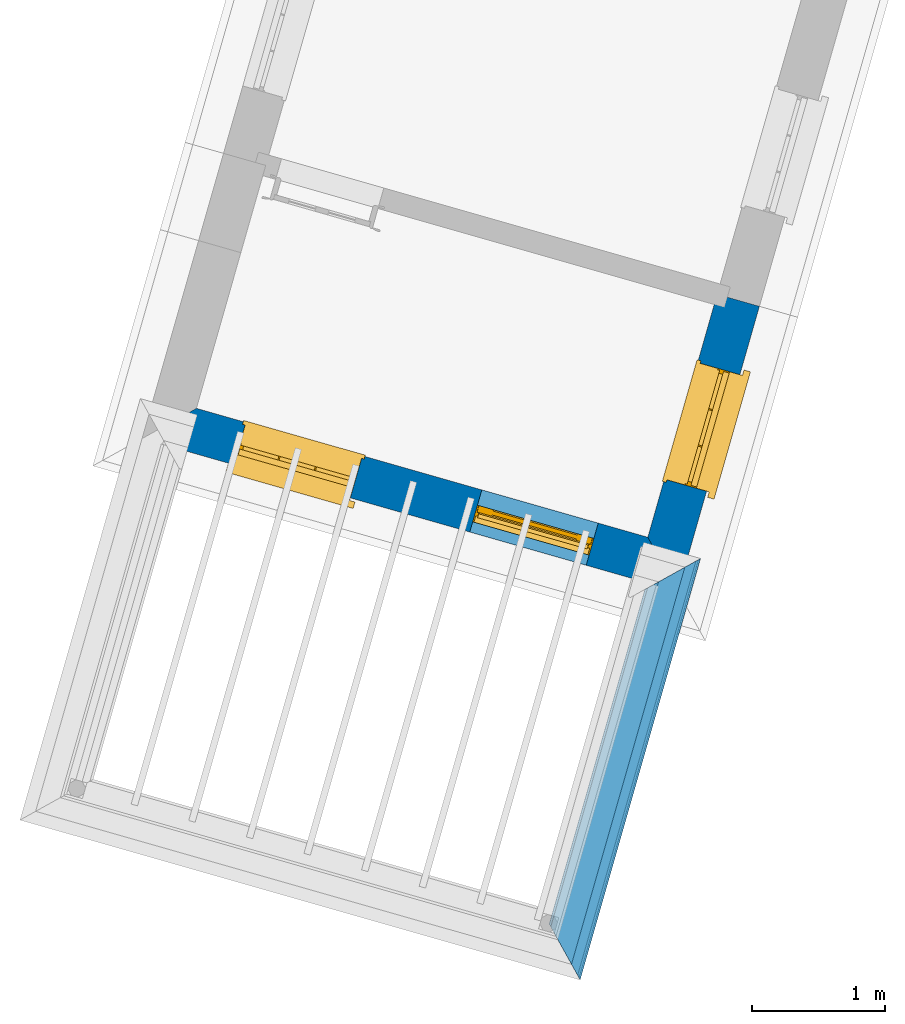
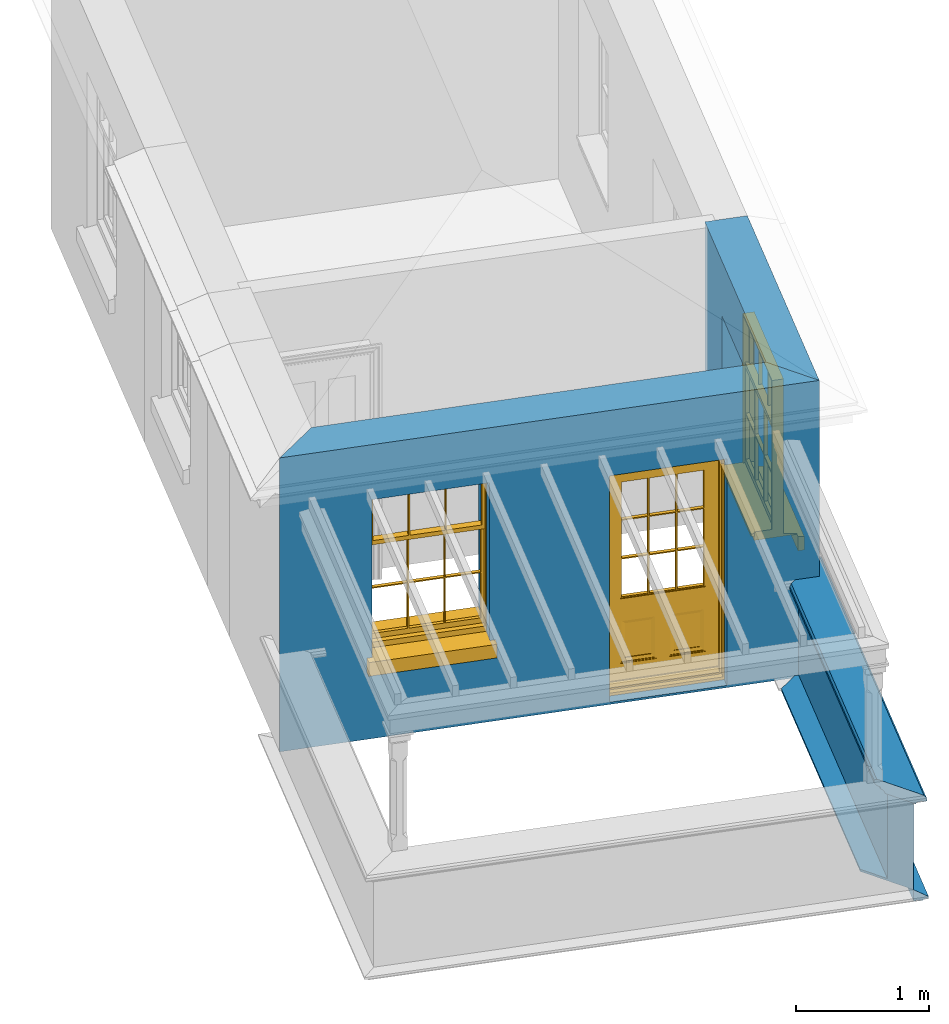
# One storey, part 2 of 4: 5 walls, 2 windows, 1 door, 3 openings.
"""IFC4 building model written with IfcOpenShell, lengths in metres."""

from ifc_helpers import new_model, si_unit, frame, origin, origin_with_axes, place, context, subcontext, project, spatial, polyline, outline, extrude, clip, halfspace, faceted_brep, source, transform, mapped, material, layer, layer_set, layer_usage, material_profile, profile_set, profile_usage, type_object, type_shapes, element, fill, save


model = new_model("IFC4")

# Units and contexts
model_context = context("Model", 3, world=origin_with_axes())
body_context = subcontext(model_context, "Body", "Model", "MODEL_VIEW")
ifc_project = project(units=[si_unit("PLANEANGLEUNIT", "RADIAN"), si_unit("MASSUNIT", "GRAM", prefix="KILO"), si_unit("FORCEUNIT", "NEWTON", prefix="KILO"), si_unit("LENGTHUNIT", "METRE"), si_unit("AREAUNIT", "SQUARE_METRE"), si_unit("VOLUMEUNIT", "CUBIC_METRE")], contexts=[model_context, model_context])

# Sites, building, storey
site_1_placement = place(None, origin_with_axes())
site_1 = spatial("IfcSite", under=ifc_project, at=site_1_placement, Name="Tamar")
site_2_placement = place(site_1_placement, origin_with_axes())
site_2 = spatial("IfcSite", under=site_1, at=site_2_placement, Name="Site plot-20", CompositionType="ELEMENT")
building_placement = place(None, origin_with_axes())
building = spatial("IfcBuilding", under=site_2, at=building_placement, Name="Building plot-20", CompositionType="ELEMENT")
storey_placement = place(None, frame((0.0, 0.0, 31.85), z_axis=(0.0, 0.0, 1.0), x_axis=(1.0, 0.0, 0.0)))
storey = spatial("IfcBuildingStorey", under=building, at=storey_placement, Name="plot-20 2", CompositionType="ELEMENT", Elevation=31.85)

# Wall, openings, door, window
ifc_material = material(Name="Masonry")
ifc_layer = layer(ifc_material, 0.33, ventilated=False)
ifc_layer_set = layer_set([ifc_layer], Name="exterior_0.08_0.25")
ifc_layer_usage = layer_usage(ifc_layer_set, "AXIS2", "POSITIVE", -0.25)
wall_type_1 = type_object("IfcWallType", Name="exterior_0.08_0.25", PredefinedType="SOLIDWALL", material=ifc_layer_set)
wall_1_placement = place(storey_placement, frame((277.044123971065, 287.550543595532, 0.0), z_axis=(0.0, 0.0, 1.0), x_axis=(0.961567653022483, -0.274568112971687, 0.0)))
wall_1 = element("IfcWall", 1, at=wall_1_placement, inside=storey, type_object=wall_type_1, material=ifc_layer_usage, Name="exterior", context=body_context, shape_type="SweptSolid", body=[
    extrude(outline(polyline([(0.0800000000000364, 0.0800000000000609), (-0.250000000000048, -0.249999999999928), (3.93676876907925, -0.249999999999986), (3.60676876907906, 0.0799999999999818), (0.0800000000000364, 0.0800000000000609)])), origin_with_axes(), (0.0, 0.0, 1.0), 2.7),
])
opening_1_placement = place(wall_1_placement, frame((0.46669219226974, 0.0, 0.75)))
opening_1 = element("IfcOpeningElement", 2, at=opening_1_placement, cuts=wall_1, Name="My Opening", ObjectType="Opening", context=body_context, shape_type="SweptSolid", body=[
    extrude(outline(polyline([(0.0, -0.269999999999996), (0.91000000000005, -0.270000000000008), (0.910000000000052, 1.09999999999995), (2.33146835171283e-15, 1.09999999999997), (0.0, -0.269999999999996)])), origin_with_axes(), (0.0, 0.0, 1.0), 1.445),
])
opening_2_placement = place(wall_1_placement, frame((2.31007657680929, 0.0, 0.0199999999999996)))
opening_2 = element("IfcOpeningElement", 3, at=opening_2_placement, cuts=wall_1, Name="My Opening", ObjectType="Opening", context=body_context, shape_type="SweptSolid", body=[
    extrude(outline(polyline([(0.0, -0.269999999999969), (0.91000000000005, -0.269999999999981), (0.910000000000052, 1.09999999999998), (2.22044604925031e-15, 1.09999999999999), (0.0, -0.269999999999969)])), origin_with_axes(), (0.0, 0.0, 1.0), 2.08),
])
door_type = type_object("IfcDoorType", Name="door_panelled", OperationType="SINGLE_SWING_LEFT", PredefinedType="NOTDEFINED")
shared_shape_1 = source(origin(), body_context, "Body", "Brep", [
    faceted_brep([(0.545, 0.195, 0.265), (0.745, 0.195, 0.265), (0.745, 0.2, 0.265), (0.545, 0.2, 0.265), (0.745, 0.2, 0.58), (0.545, 0.2, 0.58), (0.545, 0.195, 0.58), (0.515, 0.19, 0.235), (0.775, 0.19, 0.235), (0.745, 0.195, 0.58), (0.515, 0.19, 0.61), (0.515, 0.185, 0.235), (0.775, 0.185, 0.235), (0.775, 0.19, 0.61), (0.515, 0.185, 0.61), (0.785, 0.185, 0.225), (0.505, 0.185, 0.225), (0.775, 0.185, 0.61), (0.505, 0.185, 0.62), (0.785, 0.185, 0.62), (0.505, 0.18, 0.225), (0.785, 0.18, 0.225), (0.505, 0.18, 0.62), (0.785, 0.18, 0.62), (0.883, 0.18, 0.075), (0.898, 0.18, 0.075), (0.405, 0.18, 0.62), (0.405, 0.18, 0.225), (0.027, 0.18, 0.075), (0.785, 0.18, 0.82), (0.125, 0.18, 0.82), (0.405, 0.185, 0.62), (0.405, 0.185, 0.225), (0.898, 0.18, 2.068), (0.027, 0.17, 0.075), (0.883, 0.17, 0.075), (0.125, 0.18, 0.225), (0.012, 0.18, 0.075), (0.785, 0.19, 0.82), (0.125, 0.19, 0.82), (0.125, 0.18, 0.62), (0.125, 0.185, 0.62), (0.395, 0.185, 0.61), (0.395, 0.185, 0.235), (0.125, 0.185, 0.225), (0.785, 0.18, 1.895), (0.027, 0.14, 0.045), (0.883, 0.14, 0.045), (0.558333, 0.19, 0.83), (0.351667, 0.19, 0.83), (0.125, 0.18, 1.895), (0.125, 0.19, 1.895), (0.785, 0.19, 1.895), (0.012, 0.18, 2.068), (0.135, 0.185, 0.61), (0.395, 0.19, 0.61), (0.395, 0.19, 0.235), (0.135, 0.185, 0.235), (0.027, 0.14, 0.027), (0.883, 0.14, 0.027), (0.568333, 0.19, 0.83), (0.558333, 0.22, 0.83), (0.351667, 0.22, 0.83), (0.341667, 0.19, 0.83), (0.135, 0.19, 1.185), (0.135, 0.19, 1.53), (0.775, 0.19, 1.53), (0.775, 0.19, 1.185), (0.135, 0.19, 0.61), (0.365, 0.195, 0.58), (0.365, 0.195, 0.265), (0.135, 0.19, 0.235), (0.568333, 0.19, 1.175), (0.558333, 0.19, 1.175), (0.775, 0.19, 0.83), (0.558333, 0.22, 1.175), (0.785, 0.22, 0.82), (0.125, 0.22, 0.82), (0.351667, 0.22, 1.175), (0.351667, 0.19, 1.175), (0.341667, 0.19, 1.175), (0.135, 0.19, 0.83), (0.135, 0.19, 1.175), (0.135, 0.22, 1.185), (0.135, 0.22, 1.53), (0.135, 0.19, 1.54), (0.351667, 0.19, 1.885), (0.558333, 0.19, 1.885), (0.775, 0.22, 1.53), (0.775, 0.22, 1.185), (0.775, 0.19, 1.175), (0.775, 0.19, 1.54), (0.165, 0.195, 0.58), (0.365, 0.2, 0.58), (0.365, 0.2, 0.265), (0.165, 0.195, 0.265), (0.568333, 0.22, 0.83), (0.568333, 0.22, 1.175), (0.568333, 0.19, 1.185), (0.558333, 0.19, 1.185), (0.775, 0.22, 0.83), (0.785, 0.23, 0.82), (0.125, 0.23, 0.82), (0.341667, 0.22, 0.83), (0.341667, 0.22, 1.175), (0.351667, 0.19, 1.185), (0.341667, 0.19, 1.185), (0.135, 0.22, 0.83), (0.341667, 0.22, 1.185), (0.125, 0.22, 1.895), (0.341667, 0.22, 1.53), (0.341667, 0.19, 1.53), (0.135, 0.19, 1.885), (0.341667, 0.19, 1.54), (0.341667, 0.19, 1.885), (0.558333, 0.22, 1.885), (0.351667, 0.22, 1.885), (0.568333, 0.19, 1.885), (0.785, 0.22, 1.895), (0.568333, 0.22, 1.185), (0.568333, 0.19, 1.53), (0.568333, 0.22, 1.53), (0.568333, 0.19, 1.54), (0.775, 0.19, 1.885), (0.165, 0.2, 0.58), (0.165, 0.2, 0.265), (0.775, 0.22, 1.175), (0.558333, 0.19, 1.53), (0.351667, 0.22, 1.185), (0.558333, 0.22, 1.185), (0.505, 0.23, 0.62), (0.405, 0.23, 0.62), (0.125, 0.23, 1.895), (0.785, 0.23, 1.895), (0.351667, 0.19, 1.53), (0.135, 0.22, 1.175), (0.135, 0.22, 1.54), (0.341667, 0.22, 1.54), (0.135, 0.22, 1.885), (0.351667, 0.19, 1.54), (0.558333, 0.22, 1.54), (0.558333, 0.19, 1.54), (0.351667, 0.22, 1.54), (0.775, 0.22, 1.54), (0.568333, 0.22, 1.54), (0.775, 0.22, 1.885), (0.558333, 0.22, 1.53), (0.405, 0.23, 0.225), (0.505, 0.23, 0.225), (0.125, 0.23, 0.62), (0.785, 0.23, 0.62), (0.012, 0.23, 2.068), (0.898, 0.23, 2.068), (0.351667, 0.22, 1.53), (0.341667, 0.22, 1.885), (0.568333, 0.22, 1.885), (0.405, 0.225, 0.225), (0.405, 0.225, 0.62), (0.505, 0.225, 0.62), (0.505, 0.225, 0.225), (0.898, 0.23, 0.027), (0.012, 0.23, 0.027), (0.125, 0.225, 0.62), (0.785, 0.225, 0.62), (0.395, 0.225, 0.235), (0.395, 0.225, 0.61), (0.125, 0.23, 0.225), (0.125, 0.225, 0.225), (0.515, 0.225, 0.61), (0.515, 0.225, 0.235), (0.785, 0.23, 0.225), (0.785, 0.225, 0.225), (0.135, 0.225, 0.61), (0.775, 0.225, 0.61), (0.135, 0.225, 0.235), (0.395, 0.22, 0.235), (0.395, 0.22, 0.61), (0.515, 0.22, 0.61), (0.515, 0.22, 0.235), (0.775, 0.225, 0.235), (0.135, 0.22, 0.61), (0.775, 0.22, 0.61), (0.135, 0.22, 0.235), (0.365, 0.215, 0.265), (0.365, 0.215, 0.58), (0.545, 0.215, 0.58), (0.545, 0.215, 0.265), (0.775, 0.22, 0.235), (0.165, 0.215, 0.58), (0.745, 0.215, 0.58), (0.165, 0.215, 0.265), (0.365, 0.21, 0.58), (0.365, 0.21, 0.265), (0.545, 0.21, 0.58), (0.545, 0.21, 0.265), (0.745, 0.215, 0.265), (0.165, 0.21, 0.58), (0.745, 0.21, 0.58), (0.165, 0.21, 0.265), (0.745, 0.21, 0.265), (0.885, 0.178, 0.025), (0.025, 0.178, 0.025), (0.025, 0.15, 0.025), (0.885, 0.15, 0.025), (0.9, 0.23, 0.025), (0.01, 0.23, 0.025), (0.9, 0.178, 0.025), (0.91, 0.23, 0.0), (0.0, 0.23, 0.0), (0.01, 0.178, 0.025), (0.9, 0.178, 2.07), (0.9, 0.23, 2.07), (0.885, 0.178, 2.055), (0.91, 0.23, 2.08), (0.01, 0.23, 2.07), (0.0, 0.23, 2.08), (0.01, 0.178, 2.07), (0.025, 0.178, 2.055), (0.0, 0.1, 2.08), (0.91, 0.1, 2.08), (0.01, 0.1, 2.07), (0.9, 0.1, 2.07), (0.01, 0.15, 2.07), (0.9, 0.15, 2.07), (0.0, 0.1, 0.0), (0.91, 0.1, 0.0), (0.01, 0.1, 0.025), (0.9, 0.1, 0.025), (0.01, 0.15, 0.025), (0.025, 0.15, 2.055), (0.9, 0.15, 0.025), (0.885, 0.15, 2.055), (0.898, 0.18, 0.027), (0.012, 0.18, 0.027), (0.883, 0.18, 0.027), (0.027, 0.18, 0.027)], [[[0, 1, 2, 3]], [[2, 4, 5, 3]], [[0, 3, 5, 6]], [[1, 0, 7, 8]], [[9, 4, 2, 1]], [[9, 6, 5, 4]], [[0, 6, 10, 7]], [[8, 7, 11, 12]], [[8, 13, 9, 1]], [[13, 10, 6, 9]], [[7, 10, 14, 11]], [[15, 12, 11, 16]], [[12, 17, 13, 8]], [[17, 14, 10, 13]], [[18, 16, 11, 14]], [[15, 19, 17, 12]], [[15, 16, 20, 21]], [[14, 17, 19, 18]], [[16, 18, 22, 20]], [[21, 23, 19, 15]], [[24, 25, 21, 20]], [[23, 22, 18, 19]], [[20, 22, 26, 27]], [[23, 21, 25]], [[28, 24, 20, 27]], [[22, 23, 29]], [[29, 30, 26, 22]], [[27, 26, 31, 32]], [[23, 25, 33, 29]], [[34, 35, 24, 28]], [[28, 27, 36, 37]], [[38, 39, 30, 29]], [[26, 30, 40]], [[26, 40, 41, 31]], [[42, 43, 32, 31]], [[32, 44, 36, 27]], [[33, 45, 29]], [[46, 47, 35, 34]], [[36, 40, 37]], [[39, 38, 48, 49]], [[50, 30, 39, 51]], [[29, 45, 52, 38]], [[53, 37, 40, 30]], [[44, 41, 40, 36]], [[31, 41, 54, 42]], [[43, 42, 55, 56]], [[57, 44, 32, 43]], [[50, 45, 33, 53]], [[47, 46, 58, 59]], [[60, 48, 38]], [[49, 48, 61, 62]], [[49, 63, 39]], [[50, 53, 30]], [[51, 39, 64, 65]], [[45, 50, 51, 52]], [[66, 67, 38, 52]], [[57, 54, 41, 44]], [[42, 54, 68, 55]], [[56, 55, 69, 70]], [[56, 71, 57, 43]], [[60, 72, 73, 48]], [[60, 38, 74]], [[48, 73, 75, 61]], [[76, 77, 62, 61]], [[62, 78, 79, 49]], [[49, 79, 80, 63]], [[63, 81, 39]], [[82, 64, 39]], [[65, 64, 83, 84]], [[85, 51, 65]], [[52, 51, 86, 87]], [[88, 89, 67, 66]], [[90, 38, 67]], [[91, 66, 52]], [[71, 68, 54, 57]], [[55, 68, 92, 69]], [[69, 93, 94, 70]], [[70, 95, 71, 56]], [[96, 97, 72, 60]], [[73, 72, 98, 99]], [[74, 38, 90]], [[100, 96, 60, 74]], [[75, 73, 79, 78]], [[61, 75, 97, 96]], [[101, 102, 77, 76]], [[77, 103, 62]], [[96, 76, 61]], [[103, 104, 78, 62]], [[80, 79, 105, 106]], [[63, 80, 104, 103]], [[81, 63, 103, 107]], [[81, 82, 39]], [[106, 64, 82, 80]], [[106, 108, 83, 64]], [[84, 83, 77, 109]], [[110, 111, 65, 84]], [[112, 51, 85]], [[113, 85, 65, 111]], [[114, 86, 51]], [[115, 87, 86, 116]], [[117, 52, 87]], [[118, 76, 89, 88]], [[119, 98, 67, 89]], [[120, 121, 88, 66]], [[67, 98, 72, 90]], [[91, 122, 120, 66]], [[91, 52, 123]], [[95, 92, 68, 71]], [[69, 92, 124, 93]], [[94, 93, 124, 125]], [[94, 125, 95, 70]], [[72, 97, 126, 90]], [[127, 99, 98, 120]], [[99, 105, 79, 73]], [[74, 90, 126, 100]], [[96, 100, 76]], [[128, 129, 75, 78]], [[97, 75, 129, 119]], [[130, 131, 102, 101]], [[109, 77, 102, 132]], [[133, 101, 76, 118]], [[77, 107, 103]], [[78, 104, 108, 128]], [[111, 106, 105, 134]], [[104, 80, 82, 135]], [[107, 135, 82, 81]], [[110, 108, 106, 111]], [[104, 135, 83, 108]], [[83, 135, 77]], [[136, 84, 109]], [[110, 84, 136, 137]], [[114, 51, 112]], [[85, 136, 138, 112]], [[113, 137, 136, 85]], [[111, 134, 139, 113]], [[86, 114, 113, 139]], [[140, 141, 87, 115]], [[139, 142, 116, 86]], [[109, 118, 115, 116]], [[117, 123, 52]], [[117, 87, 141, 122]], [[126, 89, 76]], [[143, 118, 88]], [[120, 98, 119, 121]], [[119, 89, 126, 97]], [[144, 143, 88, 121]], [[144, 122, 91, 143]], [[127, 120, 122, 141]], [[143, 91, 123, 145]], [[124, 92, 95, 125]], [[146, 129, 99, 127]], [[99, 129, 128, 105]], [[100, 126, 76]], [[121, 119, 129, 146]], [[147, 131, 130, 148]], [[131, 149, 102]], [[130, 101, 150]], [[102, 151, 132]], [[118, 109, 132, 133]], [[101, 133, 152]], [[107, 77, 135]], [[153, 128, 108, 110]], [[134, 105, 128, 153]], [[109, 138, 136]], [[153, 110, 137, 142]], [[154, 114, 112, 138]], [[137, 113, 114, 154]], [[141, 139, 134, 127]], [[141, 140, 142, 139]], [[144, 140, 115, 155]], [[142, 137, 154, 116]], [[155, 115, 118]], [[116, 154, 109]], [[117, 155, 145, 123]], [[122, 144, 155, 117]], [[143, 145, 118]], [[121, 146, 140, 144]], [[146, 127, 134, 153]], [[156, 157, 131, 147]], [[148, 130, 158, 159]], [[148, 160, 161, 147]], [[157, 162, 149, 131]], [[161, 151, 102, 149]], [[101, 152, 160, 150]], [[163, 158, 130, 150]], [[151, 152, 133, 132]], [[154, 138, 109]], [[142, 140, 146, 153]], [[145, 155, 118]], [[157, 156, 164, 165]], [[147, 166, 167, 156]], [[168, 169, 159, 158]], [[170, 148, 159, 171]], [[148, 170, 160]], [[166, 147, 161]], [[172, 162, 157, 165]], [[166, 149, 162, 167]], [[166, 161, 149]], [[150, 160, 170]], [[163, 173, 168, 158]], [[171, 163, 150, 170]], [[174, 164, 156, 167]], [[175, 176, 165, 164]], [[169, 168, 177, 178]], [[171, 159, 169, 179]], [[167, 162, 172, 174]], [[176, 180, 172, 165]], [[179, 173, 163, 171]], [[181, 177, 168, 173]], [[164, 174, 182, 175]], [[183, 184, 176, 175]], [[178, 177, 185, 186]], [[179, 169, 178, 187]], [[174, 172, 180, 182]], [[184, 188, 180, 176]], [[187, 181, 173, 179]], [[189, 185, 177, 181]], [[175, 182, 190, 183]], [[191, 184, 183, 192]], [[185, 193, 194, 186]], [[187, 178, 186, 195]], [[182, 180, 188, 190]], [[191, 196, 188, 184]], [[195, 189, 181, 187]], [[197, 193, 185, 189]], [[183, 190, 198, 192]], [[198, 196, 191, 192]], [[194, 193, 197, 199]], [[195, 186, 194, 199]], [[188, 196, 198, 190]], [[197, 189, 195, 199]], [[200, 201, 202, 203]], [[201, 200, 204, 205]], [[206, 204, 200]], [[204, 207, 208, 205]], [[209, 201, 205]], [[210, 211, 204, 206]], [[206, 200, 212, 210]], [[211, 213, 207, 204]], [[214, 205, 208, 215]], [[216, 217, 201, 209]], [[205, 214, 216, 209]], [[216, 214, 211, 210]], [[210, 212, 217, 216]], [[214, 215, 213, 211]], [[218, 219, 213, 215]], [[219, 218, 220, 221]], [[221, 220, 222, 223]], [[215, 208, 224, 218]], [[225, 224, 208, 207]], [[224, 226, 220, 218]], [[224, 225, 227, 226]], [[219, 225, 207, 213]], [[228, 222, 220, 226]], [[219, 221, 227, 225]], [[226, 227, 203, 202]], [[202, 229, 222, 228]], [[228, 226, 202]], [[227, 221, 223, 230]], [[230, 203, 227]], [[217, 229, 202, 201]], [[231, 223, 222, 229]], [[230, 223, 231, 203]], [[231, 229, 217, 212]], [[212, 200, 203, 231]], [[33, 152, 151, 53]], [[25, 160, 152, 33]], [[161, 37, 53, 151]], [[232, 160, 25]], [[161, 233, 37]], [[160, 232, 234]], [[24, 234, 232, 25]], [[233, 161, 235]], [[37, 233, 235, 28]], [[161, 160, 234, 235]], [[35, 47, 234, 24]], [[28, 235, 46, 34]], [[58, 235, 234, 59]], [[59, 234, 47]], [[58, 46, 235]]]),
])
type_shapes(door_type, [shared_shape_1])
door_placement = place(storey_placement, frame((279.191285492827, 286.656646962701, 0.0199999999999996), z_axis=(0.0, 0.0, 1.0), x_axis=(0.875026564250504, -0.24985698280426, 0.0)))
door = element("IfcDoor", 4, at=door_placement, inside=storey, type_object=door_type, Name="circulation outside door", OverallHeight=2.08, OverallWidth=0.91, context=body_context, shape_type="MappedRepresentation", body=[
    mapped(shared_shape_1, transform((0.0, 0.0, 0.0), scale=1.0)),
])
fill(opening_2, door)
window_type = type_object("IfcWindowType", Name="sash_shorter", PartitioningType="DOUBLE_PANEL_HORIZONTAL", PredefinedType="NOTDEFINED")
shared_shape_2 = source(origin(), body_context, "Body", "Brep", [
    faceted_brep([(0.876875, 0.145, 0.999097), (0.876875, 0.145, 1.411875), (0.9, 0.145, 1.435), (0.033125, 0.145, 1.411875), (0.033125, 0.145, 0.999097), (0.01, 0.145, 1.435), (0.033125, 0.115, 1.411875), (0.01, 0.115, 1.435), (0.033125, 0.115, 0.999097), (0.876875, 0.115, 1.411875), (0.876875, 0.115, 0.999097), (0.9, 0.115, 1.435), (0.033125, 0.145, 0.960972), (0.01, 0.145, 0.960972), (0.033125, 0.145, 0.548195), (0.876875, 0.145, 0.960972), (0.876875, 0.145, 0.548195), (0.9, 0.145, 0.960972), (0.876875, 0.145, 0.538195), (0.876875, 0.145, 0.125417), (0.9, 0.145, 0.077167), (0.033125, 0.145, 0.125417), (0.033125, 0.145, 0.538195), (0.01, 0.145, 0.077167), (0.9, 0.115, 0.960972), (0.01, 0.115, 0.960972), (-0.0425, 0.0, 0.01), (-0.0425, -0.05, 0.001667), (0.0, 0.0, 0.01), (0.9525, 0.0, 0.01), (0.91, 0.0, 0.01), (0.9525, -0.05, 0.001667), (-0.02, 0.33, 0.077167), (0.0, 0.33, 0.077167), (-0.02, 0.36, 0.077167), (0.0, 0.19, 0.077167), (0.01, 0.19, 0.077167), (0.91, 0.19, 0.077167), (0.91, 0.33, 0.077167), (0.9, 0.19, 0.077167), (0.93, 0.33, 0.077167), (0.93, 0.36, 0.077167), (0.01, 0.145, 0.999097), (0.01, 0.175, 0.999097), (0.9, 0.145, 0.999097), (0.9, 0.175, 0.999097), (0.876875, 0.175, 0.125417), (0.876875, 0.175, 0.538195), (0.9, 0.175, 0.077167), (0.876875, 0.175, 0.548195), (0.876875, 0.175, 0.960972), (0.033125, 0.175, 0.125417), (0.01, 0.175, 0.077167), (0.033125, 0.175, 0.538195), (0.033125, 0.175, 0.960972), (0.033125, 0.175, 0.548195), (-0.02, 0.33, 0.052167), (-0.02, 0.36, 0.052167), (0.93, 0.36, 0.052167), (0.93, 0.33, 0.052167), (0.91, 0.33, 0.052167), (0.0, 0.33, 0.052167), (0.91, 0.1, 0.026667), (0.0, 0.1, 0.026667), (-0.0425, -0.05, -0.123333), (0.9525, -0.05, -0.123333), (-0.0425, 0.0, -0.123333), (0.9525, 0.0, -0.123333), (0.01, 0.19, 1.435), (0.9, 0.19, 1.435), (0.0, 0.19, 1.445), (0.91, 0.19, 1.445), (0.01, 0.1, 0.077167), (0.9, 0.1, 0.077167), (0.592292, 0.145, 0.125417), (0.592292, 0.175, 0.125417), (0.317708, 0.175, 0.125417), (0.317708, 0.145, 0.125417), (0.592292, 0.145, 0.548195), (0.317708, 0.145, 0.548195), (0.317708, 0.145, 0.538195), (0.592292, 0.145, 0.538195), (0.592292, 0.175, 0.548195), (0.317708, 0.175, 0.548195), (0.602292, 0.175, 0.548195), (0.602292, 0.145, 0.548195), (0.317708, 0.175, 0.538195), (0.307708, 0.175, 0.125417), (0.307708, 0.175, 0.538195), (0.602292, 0.175, 0.538195), (0.602292, 0.175, 0.125417), (0.592292, 0.175, 0.538195), (0.307708, 0.175, 0.548195), (0.317708, 0.175, 0.960972), (0.307708, 0.175, 0.960972), (0.602292, 0.175, 0.960972), (0.592292, 0.175, 0.960972), (0.307708, 0.145, 0.538195), (0.307708, 0.145, 0.125417), (0.307708, 0.145, 0.548195), (0.307708, 0.145, 0.960972), (0.592292, 0.145, 0.960972), (0.317708, 0.145, 0.960972), (0.602292, 0.145, 0.960972), (0.602292, 0.145, 0.538195), (0.602292, 0.145, 0.125417), (0.317708, 0.115, 1.411875), (0.307708, 0.115, 1.411875), (0.307708, 0.115, 0.999097), (0.317708, 0.115, 0.999097), (0.602292, 0.115, 1.411875), (0.592292, 0.115, 1.411875), (0.592292, 0.115, 0.999097), (0.602292, 0.115, 0.999097), (0.317708, 0.145, 0.999097), (0.307708, 0.145, 0.999097), (0.307708, 0.145, 1.411875), (0.317708, 0.145, 1.411875), (0.602292, 0.145, 0.999097), (0.592292, 0.145, 0.999097), (0.592292, 0.145, 1.411875), (0.602292, 0.145, 1.411875), (0.91, 0.1, 1.445), (0.9, 0.1, 1.435), (0.01, 0.1, 1.435), (0.0, 0.1, 1.445), (0.91, 0.0, 0.0), (0.0, 0.0, 0.0), (0.91, 0.33, 0.0), (0.0, 0.33, 0.0)], [[[0, 1, 2]], [[3, 4, 5]], [[6, 7, 8]], [[9, 10, 11]], [[12, 13, 14]], [[15, 16, 17]], [[18, 19, 20]], [[21, 22, 23]], [[24, 15, 17]], [[13, 12, 25]], [[26, 27, 28]], [[29, 30, 31]], [[32, 33, 34]], [[35, 36, 33]], [[37, 38, 39]], [[40, 41, 38]], [[42, 4, 43]], [[44, 45, 0]], [[46, 47, 48]], [[49, 50, 45]], [[51, 52, 53]], [[54, 55, 43]], [[38, 33, 36, 39]], [[41, 34, 33, 38]], [[56, 32, 34, 57]], [[57, 34, 41, 58]], [[58, 41, 40, 59]], [[57, 58, 60, 61]], [[52, 48, 39, 36]], [[62, 63, 28, 30]], [[27, 31, 30, 28]], [[27, 64, 65, 31]], [[66, 67, 65, 64]], [[2, 5, 68, 69]], [[68, 70, 71, 69]], [[20, 23, 72, 73]], [[73, 72, 63, 62]], [[74, 75, 76, 77]], [[78, 79, 80, 81]], [[78, 82, 83, 79]], [[16, 49, 84, 85]], [[86, 76, 87, 88]], [[89, 90, 75, 91]], [[92, 88, 53, 55]], [[82, 91, 86, 83]], [[93, 83, 92, 94]], [[95, 84, 82, 96]], [[89, 84, 49, 47]], [[97, 88, 87, 98]], [[22, 53, 88, 97]], [[81, 91, 75, 74]], [[80, 86, 91, 81]], [[77, 76, 86, 80]], [[99, 92, 55, 14]], [[100, 94, 92, 99]], [[101, 96, 82, 78]], [[79, 83, 93, 102]], [[85, 84, 95, 103]], [[104, 89, 47, 18]], [[105, 90, 89, 104]], [[104, 18, 16, 85]], [[80, 97, 98, 77]], [[104, 81, 74, 105]], [[103, 101, 78, 85]], [[99, 14, 22, 97]], [[102, 100, 99, 79]], [[106, 107, 108, 109]], [[110, 111, 112, 113]], [[114, 115, 116, 117]], [[118, 119, 120, 121]], [[107, 116, 115, 108]], [[111, 120, 119, 112]], [[109, 114, 117, 106]], [[113, 118, 121, 110]], [[85, 78, 81, 104]], [[84, 89, 91, 82]], [[83, 86, 88, 92]], [[79, 99, 97, 80]], [[109, 112, 119, 114]], [[102, 93, 96, 101]], [[106, 117, 120, 111]], [[98, 87, 51, 21]], [[6, 3, 116, 107]], [[110, 121, 1, 9]], [[19, 46, 90, 105]], [[26, 66, 64, 27]], [[29, 31, 65, 67]], [[25, 24, 112, 109]], [[11, 7, 106, 111]], [[75, 48, 52, 76]], [[43, 45, 96, 93]], [[45, 43, 114, 119]], [[5, 2, 120, 117]], [[24, 25, 102, 101]], [[42, 5, 4]], [[2, 44, 0]], [[49, 45, 48, 47]], [[52, 43, 55, 53]], [[14, 13, 23, 22]], [[20, 17, 16, 18]], [[24, 11, 10]], [[25, 8, 7]], [[8, 4, 3, 6]], [[9, 1, 0, 10]], [[15, 50, 49, 16]], [[18, 47, 46, 19]], [[21, 51, 53, 22]], [[14, 55, 54, 12]], [[44, 2, 69, 45]], [[68, 5, 42, 43]], [[36, 35, 70, 68]], [[39, 69, 71, 37]], [[62, 122, 123, 73]], [[63, 72, 124, 125]], [[8, 108, 115, 4]], [[113, 10, 0, 118]], [[94, 100, 12, 54]], [[17, 20, 73, 24]], [[72, 23, 13, 25]], [[52, 36, 68, 43]], [[69, 39, 48, 45]], [[11, 24, 73, 123]], [[7, 124, 72, 25]], [[23, 77, 98]], [[98, 21, 23]], [[105, 74, 20]], [[20, 19, 105]], [[20, 74, 77, 23]], [[113, 112, 24]], [[24, 10, 113]], [[25, 109, 108]], [[108, 8, 25]], [[110, 9, 11]], [[11, 111, 110]], [[7, 6, 107]], [[107, 106, 7]], [[5, 117, 116]], [[116, 3, 5]], [[121, 120, 2]], [[2, 1, 121]], [[11, 123, 124, 7]], [[122, 125, 124, 123]], [[43, 93, 94]], [[94, 54, 43]], [[96, 45, 95]], [[50, 95, 45]], [[15, 103, 95, 50]], [[48, 75, 90]], [[90, 46, 48]], [[87, 76, 52]], [[52, 51, 87]], [[103, 15, 24]], [[24, 101, 103]], [[100, 102, 25]], [[25, 12, 100]], [[115, 114, 43]], [[43, 4, 115]], [[118, 0, 45]], [[45, 119, 118]], [[71, 70, 125, 122]], [[70, 35, 63, 125]], [[122, 62, 37, 71]], [[126, 67, 66, 127]], [[60, 58, 59]], [[38, 60, 59, 40]], [[61, 56, 57]], [[32, 56, 61, 33]], [[61, 60, 128, 129]], [[62, 60, 38, 37]], [[126, 128, 60, 62]], [[33, 61, 63, 35]], [[61, 129, 127, 63]], [[128, 126, 127, 129]], [[28, 127, 66, 26]], [[63, 127, 28]], [[29, 67, 126, 30]], [[30, 126, 62]]]),
])
type_shapes(window_type, [shared_shape_2])
window_1_placement = place(storey_placement, frame((277.418746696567, 287.162781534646, 0.75), z_axis=(0.0, 0.0, 1.0), x_axis=(0.875026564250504, -0.24985698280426, 0.0)))
window_1 = element("IfcWindow", 5, at=window_1_placement, inside=storey, type_object=window_type, Name="circulation outside window", OverallHeight=1.445, OverallWidth=0.91, context=body_context, shape_type="MappedRepresentation", body=[
    mapped(shared_shape_2, transform((0.0, 0.0, 0.0), scale=1.0)),
])
fill(opening_1, window_1)

# Wall, opening, window
wall_2_placement = place(storey_placement, frame((280.589201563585, 286.538274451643, 0.0), z_axis=(0.0, 0.0, 1.0), x_axis=(0.274568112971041, 0.961567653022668, 0.0)))
wall_2 = element("IfcWall", 6, at=wall_2_placement, inside=storey, type_object=wall_type_1, material=ifc_layer_usage, Name="exterior", context=body_context, shape_type="SweptSolid", body=[
    extrude(outline(polyline([(0.0800000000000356, 0.0799999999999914), (-0.250000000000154, -0.249999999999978), (1.97818147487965, -0.250000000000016), (1.97818147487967, 0.0799999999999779), (0.0800000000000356, 0.0799999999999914)])), origin_with_axes(), (0.0, 0.0, 1.0), 2.7),
])
opening_3_placement = place(wall_2_placement, frame((0.534090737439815, 0.0, 0.75)))
opening_3 = element("IfcOpeningElement", 7, at=opening_3_placement, cuts=wall_2, Name="My Opening", ObjectType="Opening", context=body_context, shape_type="SweptSolid", body=[
    extrude(outline(polyline([(0.0, -0.269999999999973), (0.910000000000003, -0.270000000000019), (0.910000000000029, 1.09999999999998), (2.58681964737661e-14, 1.10000000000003), (0.0, -0.269999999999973)])), origin_with_axes(), (0.0, 0.0, 1.0), 1.445),
])
window_2_placement = place(storey_placement, frame((280.995469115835, 286.977705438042, 0.75), z_axis=(0.0, 0.0, 1.0), x_axis=(0.249856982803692, 0.875026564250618, 0.0)))
window_2 = element("IfcWindow", 8, at=window_2_placement, inside=storey, type_object=window_type, Name="circulation outside window", OverallHeight=1.445, OverallWidth=0.91, context=body_context, shape_type="MappedRepresentation", body=[
    mapped(shared_shape_2, transform((0.0, 0.0, 0.0), scale=1.0)),
])
fill(opening_3, window_2)

# Walls
ifc_material_profile_1 = material_profile(None, outline(polyline([(0.25, 0.0), (0.25, 0.795), (0.09, 0.795), (0.09, 0.02), (-0.08, 0.02), (-0.08, 0.0), (0.25, 0.0)])))
ifc_profile_set_1 = profile_set([ifc_material_profile_1])
ifc_profile_usage_1 = profile_usage(ifc_profile_set_1)
wall_type_2 = type_object("IfcWallType", Name="parapet_0", PredefinedType="PARAPET", material=ifc_profile_set_1)
wall_3_placement = place(storey_placement, frame((280.778653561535, 287.201756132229, 0.0), z_axis=(-0.274568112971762, -0.961567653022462, 0.0), x_axis=(0.961567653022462, -0.274568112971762, 0.0)))
element("IfcWall", 9, at=wall_3_placement, inside=storey, type_object=wall_type_2, material=ifc_profile_usage_1, Name="parapet_0", context=body_context, shape_type="Clipping", body=[
    clip(clip(extrude(outline(polyline([(0.25, 0.0), (0.25, 0.795), (0.09, 0.795), (0.09, 0.02), (-0.08, 0.02), (-0.08, 0.0), (0.25, 0.0)])), origin_with_axes(), (0.0, 0.0, 1.0), 4.60306381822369), halfspace(frame((0.0, 0.0, 3.60306381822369), z_axis=(0.707106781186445, 0.0, -0.70710678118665), x_axis=(0.0, 1.0, 0.0)), True)), halfspace(frame((0.0, 0.0, 1.0), z_axis=(-0.707106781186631, 0.0, -0.707106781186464), x_axis=(0.0, 1.0, 0.0)), False)),
])
ifc_material_profile_2 = material_profile(None, outline(polyline([(0.265, 0.795), (0.268, 0.807), (0.274, 0.816), (0.283, 0.822), (0.295, 0.825), (0.295, 0.84), (0.305, 0.84), (0.317, 0.842), (0.326, 0.849), (0.333, 0.858), (0.335, 0.87), (0.333, 0.882), (0.326, 0.891), (0.317, 0.898), (0.305, 0.9), (0.035, 0.9), (0.023, 0.898), (0.014, 0.891), (0.007, 0.882), (0.005, 0.87), (0.007, 0.858), (0.014, 0.849), (0.023, 0.842), (0.035, 0.84), (0.045, 0.84), (0.045, 0.825), (0.057, 0.822), (0.066, 0.816), (0.072, 0.807), (0.075, 0.795), (0.265, 0.795)])))
ifc_profile_set_2 = profile_set([ifc_material_profile_2])
ifc_profile_usage_2 = profile_usage(ifc_profile_set_2)
wall_type_3 = type_object("IfcWallType", Name="parapet_1", PredefinedType="PARAPET", material=ifc_profile_set_2)
wall_4_placement = place(storey_placement, frame((280.778653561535, 287.201756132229, 0.0), z_axis=(-0.274568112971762, -0.961567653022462, 0.0), x_axis=(0.961567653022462, -0.274568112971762, 0.0)))
element("IfcWall", 10, at=wall_4_placement, inside=storey, type_object=wall_type_3, material=ifc_profile_usage_2, Name="parapet_1", context=body_context, shape_type="Clipping", body=[
    clip(clip(extrude(outline(polyline([(0.265, 0.795), (0.268, 0.807), (0.274, 0.816), (0.283, 0.822), (0.295, 0.825), (0.295, 0.84), (0.305, 0.84), (0.317, 0.842), (0.326, 0.849), (0.333, 0.858), (0.335, 0.87), (0.333, 0.882), (0.326, 0.891), (0.317, 0.898), (0.305, 0.9), (0.035, 0.9), (0.023, 0.898), (0.014, 0.891), (0.007, 0.882), (0.005, 0.87), (0.007, 0.858), (0.014, 0.849), (0.023, 0.842), (0.035, 0.84), (0.045, 0.84), (0.045, 0.825), (0.057, 0.822), (0.066, 0.816), (0.072, 0.807), (0.075, 0.795), (0.265, 0.795)])), origin_with_axes(), (0.0, 0.0, 1.0), 4.60306381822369), halfspace(frame((0.0, 0.0, 3.60306381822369), z_axis=(0.707106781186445, 0.0, -0.70710678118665), x_axis=(0.0, 1.0, 0.0)), True)), halfspace(frame((0.0, 0.0, 1.0), z_axis=(-0.707106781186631, 0.0, -0.707106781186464), x_axis=(0.0, 1.0, 0.0)), False)),
])
ifc_material_profile_3 = material_profile(None, outline(polyline([(0.25, -0.1), (0.265, -0.1), (0.265, -0.085), (0.278, -0.084), (0.289, -0.081), (0.301, -0.074), (0.309, -0.065), (0.315, -0.055), (0.324, -0.044), (0.334, -0.038), (0.345, -0.035), (0.345, -0.015), (0.25, 0.0), (0.25, -0.1)])))
ifc_profile_set_3 = profile_set([ifc_material_profile_3])
ifc_profile_usage_3 = profile_usage(ifc_profile_set_3)
wall_type_4 = type_object("IfcWallType", Name="parapet_2", PredefinedType="PARAPET", material=ifc_profile_set_3)
wall_5_placement = place(storey_placement, frame((280.778653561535, 287.201756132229, 0.0), z_axis=(-0.274568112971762, -0.961567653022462, 0.0), x_axis=(0.961567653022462, -0.274568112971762, 0.0)))
element("IfcWall", 11, at=wall_5_placement, inside=storey, type_object=wall_type_4, material=ifc_profile_usage_3, Name="parapet_2", context=body_context, shape_type="Clipping", body=[
    clip(clip(extrude(outline(polyline([(0.25, -0.1), (0.265, -0.1), (0.265, -0.085), (0.278, -0.084), (0.289, -0.081), (0.301, -0.074), (0.309, -0.065), (0.315, -0.055), (0.324, -0.044), (0.334, -0.038), (0.345, -0.035), (0.345, -0.015), (0.25, 0.0), (0.25, -0.1)])), origin_with_axes(), (0.0, 0.0, 1.0), 4.60306381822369), halfspace(frame((0.0, 0.0, 3.60306381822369), z_axis=(0.707106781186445, 0.0, -0.70710678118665), x_axis=(0.0, 1.0, 0.0)), True)), halfspace(frame((0.0, 0.0, 1.0), z_axis=(-0.707106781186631, 0.0, -0.707106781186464), x_axis=(0.0, 1.0, 0.0)), False)),
])

save(model, "model.ifc")
